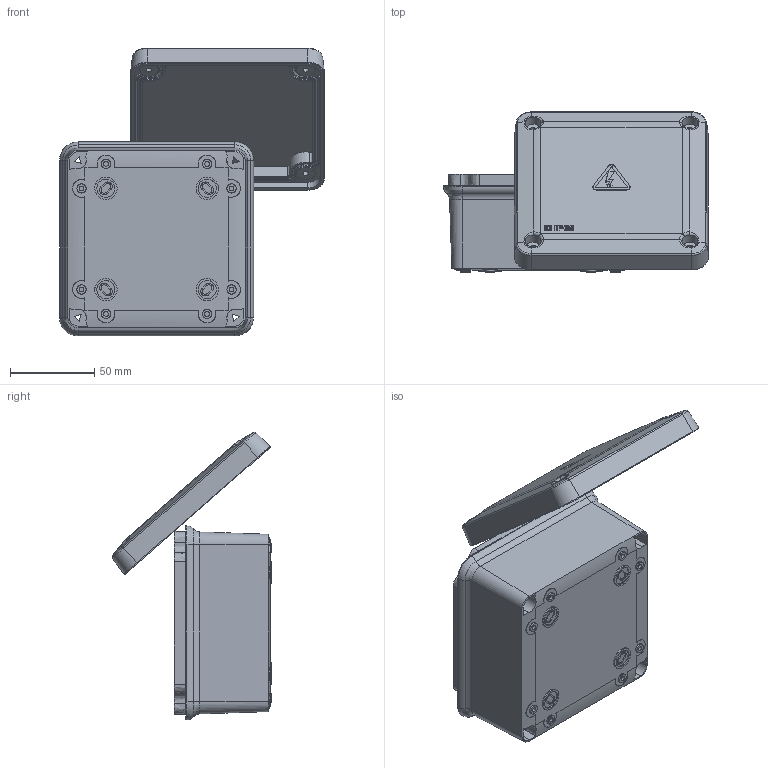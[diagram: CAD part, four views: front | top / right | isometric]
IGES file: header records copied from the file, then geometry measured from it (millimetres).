
Global section: file name: electrical box - 115 x 115 x 65 mm; native system: Autodesk Inventor 2022; preprocessor: unknown; author: ARS; date: 20240924.142314; units: millimetre
Bounding box: 157.05 x 94.78 x 170.65 mm (x, y, z)
Volume: 151394.1 mm3; surface area: 124395.1 mm2
Topology: 2 solids, 2 shells, 772 faces, 1952 edges, 1276 vertices
Faces by surface type: bspline 772
